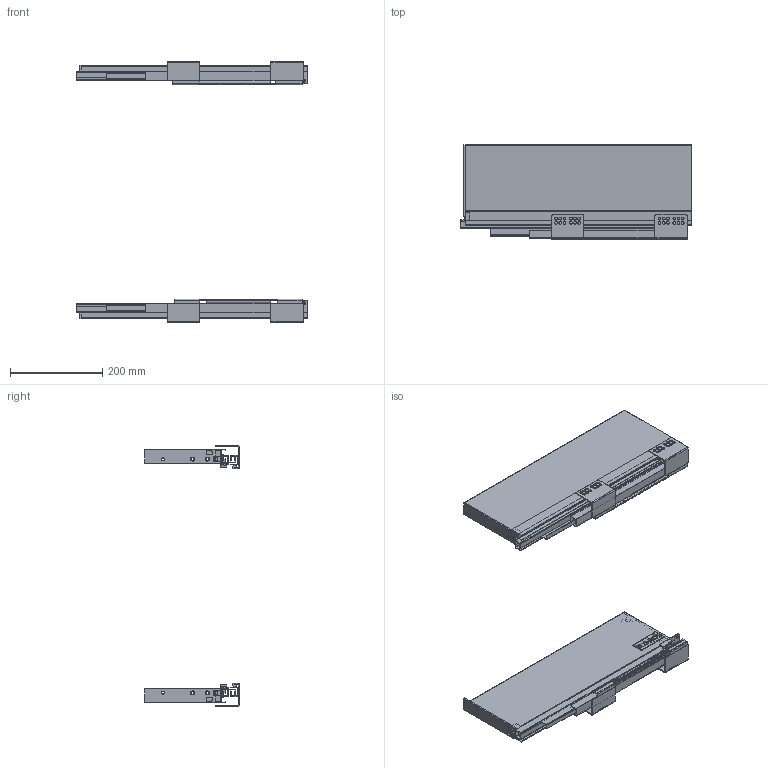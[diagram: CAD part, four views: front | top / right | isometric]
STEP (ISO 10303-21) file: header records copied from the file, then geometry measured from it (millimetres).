
FILE_DESCRIPTION(/* description */ (''),/* implementation_level */ '2;1');
FILE_NAME(/* name */ 'C:\Users\dmitruk\Documents\WORK\\X2\041D0410041F042004100412041B042F042E042904180415\X0\\SLIMBOX\SLIMBOX\SLIMBOX H175 L-500.stp',/* time_stamp */ '2022-04-19T17:18:15+03:00',/* author */ ('dmitruk'),/* organization */ ('AKS'),/* preprocessor_version */ 'ST-DEVELOPER v16.5',/* originating_system */ 'Autodesk Inventor 2017',/* authorisation */ '');
FILE_SCHEMA (('AUTOMOTIVE_DESIGN { 1 0 10303 214 3 1 1 }'));
Length unit declared in the file: millimetre
Products named in the file (13): SLIMBOX 90 мм правый; Боковина SLIMBOX _2; Направляющие \X2\0441043A
0440044B0442043E0433043E\X0\ монтажа \X2\043F
043E043B043D043E0433043E\X0\ \X2\0432044B04340432043804360435043D0438044F
\X0\ SLIMBOX-01; CR SLIMBOX-500; DR SLIMBOX; Крепление \X2\04440430
0441043004340430\X0\ SLIMBOX прав; CR SLIMBOX-500_1; DL SLIMBOX; Крепление \X2\04440430
0441043004340430\X0\ SLIMBOX лев; slim DW; Крепление к 
фасаду; Заглушка SLIMBOX; Крепление к 
фасаду 175
Assembly tree (16 placements, depth 3):
  SLIMBOX 90 мм правый
    Боковина SLIMBOX _2
    Направляющие \X2\0441043A
0440044B0442043E0433043E\X0\ монтажа \X2\043F
043E043B043D043E0433043E\X0\ \X2\0432044B04340432043804360435043D0438044F
\X0\ SLIMBOX-01
      CR SLIMBOX-500
      DR SLIMBOX
      slim DW  x2
      Крепление \X2\04440430
0441043004340430\X0\ SLIMBOX прав
      CR SLIMBOX-500_1
      DL SLIMBOX
      Крепление \X2\04440430
0441043004340430\X0\ SLIMBOX лев
    Крепление к 
фасаду  x2
    Заглушка SLIMBOX  x2
    Крепление к 
фасаду 175  x2
Bounding box: 500 x 204.5 x 564 mm (x, y, z)
Volume: 754868.6 mm3; surface area: 1146884.3 mm2
Topology: 37 solids, 37 shells, 1641 faces, 4458 edges, 2947 vertices
Faces by surface type: plane 1155, cylinder 434, cone 28, torus 24
Full cylindrical faces by diameter (mm): 3 x4, 3.8 x4, 4 x16, 4.8 x4, 6 x48, 7.603 x4, 7.801 x2, 8.085 x2, 10.37 x4, 11 x12, 12.231 x2
Entity records: 39654 total; most frequent: CARTESIAN_POINT 6765, ORIENTED_EDGE 6536, DIRECTION 6465, EDGE_CURVE 3268, LINE 2639, VECTOR 2639, VERTEX_POINT 2213, AXIS2_PLACEMENT_3D 1913
